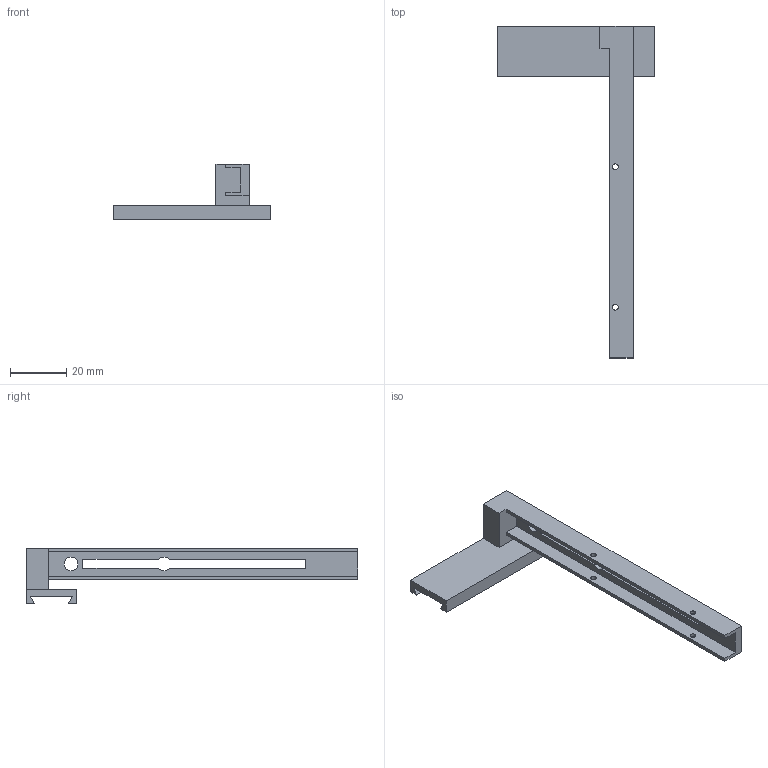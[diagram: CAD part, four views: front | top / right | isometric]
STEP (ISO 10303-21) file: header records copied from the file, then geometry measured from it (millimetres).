
FILE_DESCRIPTION(('Open CASCADE Model'),'2;1');
FILE_NAME('Open CASCADE Shape Model','2026-10-17T23:13:31',('Author'),( 'Open CASCADE'),'Open CASCADE STEP processor 7.9','Open CASCADE 7.9' ,'Unknown');
FILE_SCHEMA(('AUTOMOTIVE_DESIGN { 1 0 10303 214 1 1 1 1 }'));
Length unit declared in the file: millimetre
Products named in the file (1): Open CASCADE STEP translator 7.9 10
Bounding box: 56 x 118 x 19.9 mm (x, y, z)
Volume: 9021.2 mm3; surface area: 9243.9 mm2
Topology: 1 solids, 1 shells, 34 faces, 96 edges, 64 vertices
Faces by surface type: plane 27, cylinder 7
Full cylindrical faces by diameter (mm): 2 x4, 4.9 x1
Entity records: 2360 total; most frequent: CARTESIAN_POINT 529, DIRECTION 300, LINE 202, VECTOR 202, ORIENTED_EDGE 192, PCURVE 192, DEFINITIONAL_REPRESENTATION 192, EDGE_CURVE 96
